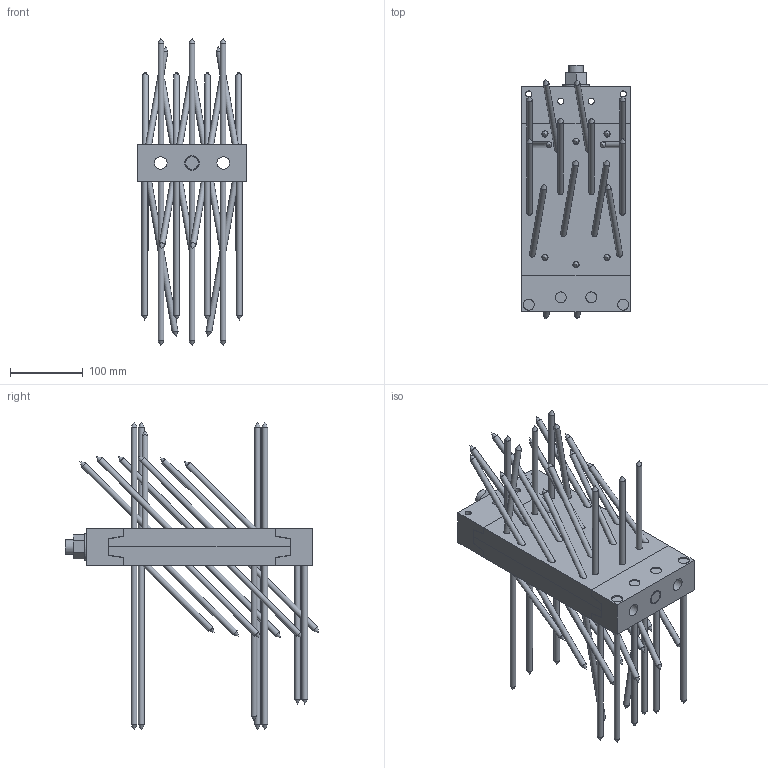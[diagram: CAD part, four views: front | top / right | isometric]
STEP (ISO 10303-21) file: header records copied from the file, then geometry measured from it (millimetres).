
FILE_DESCRIPTION(/* description */ ('Unknown'),/* implementation_level */ '2;1');
FILE_NAME(/* name */ 'MEGANT_310x150x50_Verdeckt',/* time_stamp */ '2020-05-05T17:05:51+02:00',/* author */ ('Unknown'),/* organization */ ('Unknown'),/* preprocessor_version */ 'ST-DEVELOPER v16.7',/* originating_system */ 'DEX',/* authorisation */ $);
FILE_SCHEMA (('AUTOMOTIVE_DESIGN {1 0 10303 214 3 1 1}'));
Length unit declared in the file: millimetre
Products named in the file (13): MEGANT_310x150x50_Verdeckt; Verbinderplatte_250x150x25_HT; SK_Schraube_8x160; Verbinderplatte_250x150x25; Verbinderplatte_250x150x25_NT; SK_Schraube_8x240; Spannbacke_oben_150x50x50; Spannbacke_unten_150x50x50_NT; Spannbacke_unten_150x50x50; Gewindestange_M20_L340; Mutter_M20; Beilagscheibe_M20
Assembly tree (55 placements, depth 3):
  MEGANT_310x150x50_Verdeckt
    Verbinderplatte_250x150x25_HT
      SK_Schraube_8x160  x20
      Verbinderplatte_250x150x25
    Verbinderplatte_250x150x25_NT
      SK_Schraube_8x240  x8
      Verbinderplatte_250x150x25
      SK_Schraube_8x160  x12
    Spannbacke_oben_150x50x50
    Spannbacke_unten_150x50x50_NT
      Spannbacke_unten_150x50x50
      SK_Schraube_8x240  x4
    Gewindestange_M20_L340
      Gewindestange_M20_L340
      Mutter_M20
      Beilagscheibe_M20
Bounding box: 150 x 349.49 x 424 mm (x, y, z)
Volume: 2303272.6 mm3; surface area: 571724.3 mm2
Topology: 51 solids, 51 shells, 563 faces, 1317 edges, 823 vertices
Faces by surface type: plane 225, cylinder 202, cone 136
Full cylindrical faces by diameter (mm): 8 x44, 8.5 x48, 15 x92, 17.294 x4, 20 x1, 21 x4, 37 x1
Entity records: 6831 total; most frequent: DIRECTION 1124, CARTESIAN_POINT 1036, ORIENTED_EDGE 856, EDGE_CURVE 428, AXIS2_PLACEMENT_3D 422, FACE_BOUND 398, EDGE_LOOP 396, VERTEX_POINT 334
